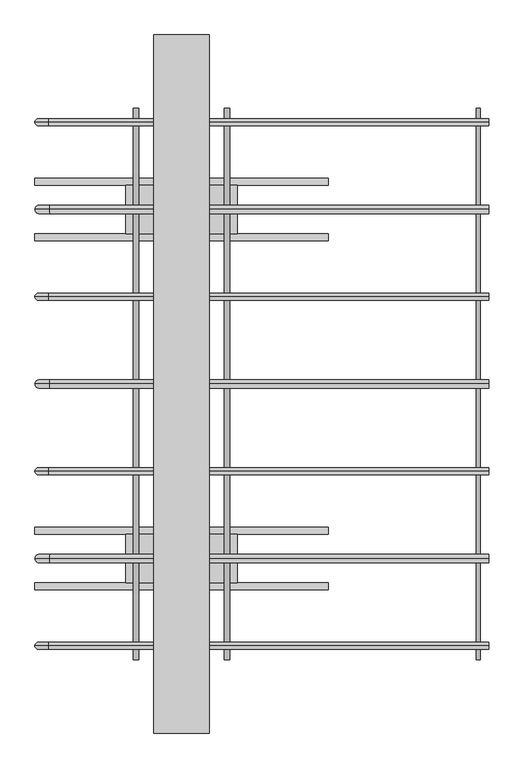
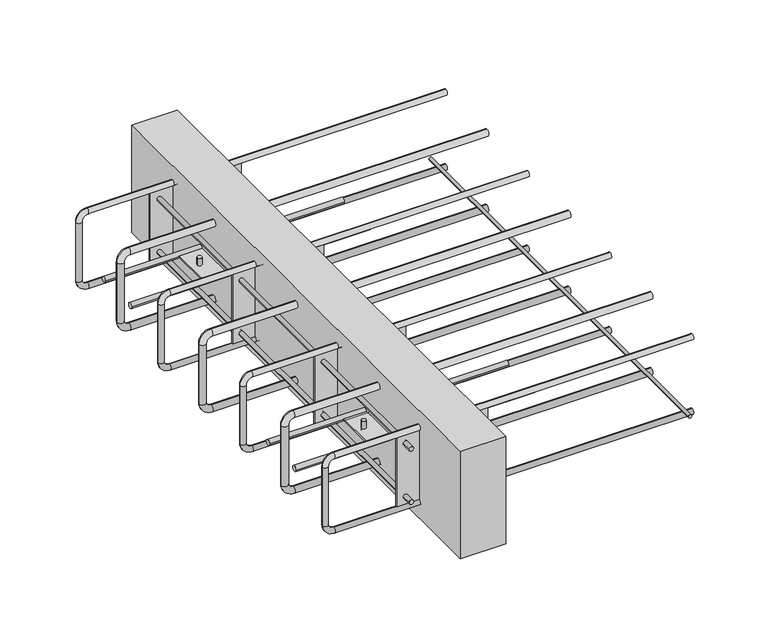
"""IFC4 building model written with IfcOpenShell, lengths in millimetres: fastener geometry, ACINOXplus_Typenreihe_Ux-Ox : UC+ S2."""

from ifc_helpers import new_model, si_unit, point, frame, frame_2d, origin, place, context, project, spatial, polyline, circle_curve, ellipse_curve, trimmed, segment, composite_curve, outline, extrude, source, transform, mapped, element, save
from ifc_brep_helpers import plane_surface, cylinder_surface, revolved_surface, advanced_brep


def fastener_02dcea03(model_context):
    return source(origin(), model_context, "Body", "SolidModel", [
        advanced_brep(
        [(440.0, 0.0, -23.5), (440.0, 0.0, -35.5), (-189.0, 0.0, -23.5), (-189.0, 0.0, -35.5), (-198.0, 0.0, -44.5), (-210.0, 0.0, -44.5), (-210.0, 0.0, -155.5), (-198.0, 0.0, -155.5), (-189.0, 0.0, -164.5), (-189.0, 0.0, -176.5), (440.0, 0.0, -176.5), (440.0, 0.0, -164.5)],
        [
            (0, 1, circle_curve(frame((440.0, 0.0, -29.5), z_axis=(1.0, 0.0, 0.0), x_axis=(0.0, 0.0, -1.0)), 6.0)),
            (1, 0, circle_curve(frame((440.0, 0.0, -29.5), z_axis=(1.0, 0.0, 0.0), x_axis=(0.0, 0.0, -1.0)), 6.0)),
            (0, 2),
            (2, 3, circle_curve(frame((-189.0, 0.0, -29.5), z_axis=(1.0, 0.0, 0.0), x_axis=(0.0, 0.0, -1.0)), 6.0)),
            (3, 1),
            (3, 2, circle_curve(frame((-189.0, 0.0, -29.5), z_axis=(1.0, 0.0, 0.0), x_axis=(0.0, 0.0, -1.0)), 6.0)),
            (4, 3, circle_curve(frame((-189.0, 0.0, -44.5), z_axis=(0.0, 1.0, 0.0), x_axis=(0.0, 0.0, 1.0)), 9.0)),
            (2, 5, circle_curve(frame((-189.0, 0.0, -44.5), z_axis=(0.0, -1.0, 0.0), x_axis=(0.0, 0.0, 1.0)), 21.0)),
            (5, 4, circle_curve(frame((-204.0, 0.0, -44.5), z_axis=(0.0, 0.0, 1.0), x_axis=(1.0, 0.0, 0.0)), 6.0)),
            (4, 5, circle_curve(frame((-204.0, 0.0, -44.5), z_axis=(0.0, 0.0, 1.0), x_axis=(1.0, 0.0, 0.0)), 6.0)),
            (5, 6),
            (6, 7, circle_curve(frame((-204.0, 0.0, -155.5), z_axis=(0.0, 0.0, 1.0), x_axis=(1.0, 0.0, 0.0)), 6.0)),
            (7, 4),
            (7, 6, circle_curve(frame((-204.0, 0.0, -155.5), z_axis=(0.0, 0.0, 1.0), x_axis=(1.0, 0.0, 0.0)), 6.0)),
            (8, 7, circle_curve(frame((-189.0, 0.0, -155.5), z_axis=(0.0, 1.0, 0.0), x_axis=(-1.0, 0.0, 0.0)), 9.0)),
            (6, 9, circle_curve(frame((-189.0, 0.0, -155.5), z_axis=(0.0, -1.0, 0.0), x_axis=(-1.0, 0.0, 0.0)), 21.0)),
            (9, 8, circle_curve(frame((-189.0, 0.0, -170.5), z_axis=(-1.0, 0.0, 0.0), x_axis=(0.0, 0.0, 1.0)), 6.0)),
            (8, 9, circle_curve(frame((-189.0, 0.0, -170.5), z_axis=(-1.0, 0.0, 0.0), x_axis=(0.0, 0.0, 1.0)), 6.0)),
            (10, 11, circle_curve(frame((440.0, 0.0, -170.5), z_axis=(1.0, 0.0, 0.0), x_axis=(0.0, 0.0, 1.0)), 6.0)),
            (11, 10, circle_curve(frame((440.0, 0.0, -170.5), z_axis=(1.0, 0.0, 0.0), x_axis=(0.0, 0.0, 1.0)), 6.0)),
            (9, 10),
            (11, 8),
        ],
        [
            plane_surface(frame((440.0, 0.0, -29.5), z_axis=(1.0, 0.0, 0.0), x_axis=(0.0, -1.0, 0.0))),
            cylinder_surface(frame((440.0, 0.0, -29.5), z_axis=(1.0, 0.0, 0.0), x_axis=(0.0, 0.0, -1.0)), 6.0),
            revolved_surface(trimmed(ellipse_curve(frame((-189.0, 0.0, -29.5), z_axis=(1.0, 0.0, 0.0), x_axis=(0.0, 0.0, -1.0)), 6.0, 6.0), [point((-189.0, 0.0, -23.5))], [point((-189.0, 0.0, -35.5))], True, "CARTESIAN"), (-189.0, 0.0, -44.5), (0.0, -1.0, 0.0)),
            revolved_surface(trimmed(ellipse_curve(frame((-189.0, 0.0, -29.5), z_axis=(1.0, 0.0, 0.0), x_axis=(0.0, 0.0, -1.0)), 6.0, 6.0), [point((-189.0, 0.0, -35.5))], [point((-189.0, 0.0, -23.5))], True, "CARTESIAN"), (-189.0, 0.0, -44.5), (0.0, -1.0, 0.0)),
            cylinder_surface(frame((-204.0, 0.0, -44.5), z_axis=(0.0, 0.0, 1.0), x_axis=(1.0, 0.0, 0.0)), 6.0),
            revolved_surface(trimmed(ellipse_curve(frame((-204.0, 0.0, -155.5), z_axis=(0.0, 0.0, 1.0), x_axis=(1.0, 0.0, 0.0)), 6.0, 6.0), [point((-210.0, 0.0, -155.5))], [point((-198.0, 0.0, -155.5))], True, "CARTESIAN"), (-189.0, 0.0, -155.5), (0.0, -1.0, 0.0)),
            revolved_surface(trimmed(ellipse_curve(frame((-204.0, 0.0, -155.5), z_axis=(0.0, 0.0, 1.0), x_axis=(1.0, 0.0, 0.0)), 6.0, 6.0), [point((-198.0, 0.0, -155.5))], [point((-210.0, 0.0, -155.5))], True, "CARTESIAN"), (-189.0, 0.0, -155.5), (0.0, -1.0, 0.0)),
            plane_surface(frame((440.0, 0.0, -170.5), z_axis=(1.0, 0.0, 0.0), x_axis=(0.0, -1.0, 0.0))),
            cylinder_surface(frame((-189.0, 0.0, -170.5), z_axis=(-1.0, 0.0, 0.0), x_axis=(0.0, 0.0, 1.0)), 6.0),
        ],
        [
            (0, [[1, 2]]),
            (1, [[-1, 3, 4, 5]]),
            (1, [[-2, -5, 6, -3]]),
            (2, [[7, -4, 8, 9]]),
            (3, [[-8, -6, -7, 10]]),
            (4, [[-9, 11, 12, 13]]),
            (4, [[-10, -13, 14, -11]]),
            (5, [[15, -12, 16, 17]]),
            (6, [[-16, -14, -15, 18]]),
            (7, [[19, 20]]),
            (8, [[-17, 21, -20, 22]]),
            (8, [[-18, -22, -19, -21]]),
        ],
    ),
        advanced_brep(
        [(440.0, 250.0, -23.5), (440.0, 250.0, -35.5), (-189.0, 250.0, -23.5), (-189.0, 250.0, -35.5), (-198.0, 250.0, -44.5), (-210.0, 250.0, -44.5), (-210.0, 250.0, -155.5), (-198.0, 250.0, -155.5), (-189.0, 250.0, -164.5), (-189.0, 250.0, -176.5), (440.0, 250.0, -176.5), (440.0, 250.0, -164.5)],
        [
            (0, 1, circle_curve(frame((440.0, 250.0, -29.5), z_axis=(1.0, 0.0, 0.0), x_axis=(0.0, 0.0, -1.0)), 6.0)),
            (1, 0, circle_curve(frame((440.0, 250.0, -29.5), z_axis=(1.0, 0.0, 0.0), x_axis=(0.0, 0.0, -1.0)), 6.0)),
            (0, 2),
            (2, 3, circle_curve(frame((-189.0, 250.0, -29.5), z_axis=(1.0, 0.0, 0.0), x_axis=(0.0, 0.0, -1.0)), 6.0)),
            (3, 1),
            (3, 2, circle_curve(frame((-189.0, 250.0, -29.5), z_axis=(1.0, 0.0, 0.0), x_axis=(0.0, 0.0, -1.0)), 6.0)),
            (4, 3, circle_curve(frame((-189.0, 250.0, -44.5), z_axis=(0.0, 1.0, 0.0), x_axis=(0.0, 0.0, 1.0)), 9.0)),
            (2, 5, circle_curve(frame((-189.0, 250.0, -44.5), z_axis=(0.0, -1.0, 0.0), x_axis=(0.0, 0.0, 1.0)), 21.0)),
            (5, 4, circle_curve(frame((-204.0, 250.0, -44.5), z_axis=(0.0, 0.0, 1.0), x_axis=(1.0, 0.0, 0.0)), 6.0)),
            (4, 5, circle_curve(frame((-204.0, 250.0, -44.5), z_axis=(0.0, 0.0, 1.0), x_axis=(1.0, 0.0, 0.0)), 6.0)),
            (5, 6),
            (6, 7, circle_curve(frame((-204.0, 250.0, -155.5), z_axis=(0.0, 0.0, 1.0), x_axis=(1.0, 0.0, 0.0)), 6.0)),
            (7, 4),
            (7, 6, circle_curve(frame((-204.0, 250.0, -155.5), z_axis=(0.0, 0.0, 1.0), x_axis=(1.0, 0.0, 0.0)), 6.0)),
            (8, 7, circle_curve(frame((-189.0, 250.0, -155.5), z_axis=(0.0, 1.0, 0.0), x_axis=(-1.0, 0.0, 0.0)), 9.0)),
            (6, 9, circle_curve(frame((-189.0, 250.0, -155.5), z_axis=(0.0, -1.0, 0.0), x_axis=(-1.0, 0.0, 0.0)), 21.0)),
            (9, 8, circle_curve(frame((-189.0, 250.0, -170.5), z_axis=(-1.0, 0.0, 0.0), x_axis=(0.0, 0.0, 1.0)), 6.0)),
            (8, 9, circle_curve(frame((-189.0, 250.0, -170.5), z_axis=(-1.0, 0.0, 0.0), x_axis=(0.0, 0.0, 1.0)), 6.0)),
            (10, 11, circle_curve(frame((440.0, 250.0, -170.5), z_axis=(1.0, 0.0, 0.0), x_axis=(0.0, 0.0, 1.0)), 6.0)),
            (11, 10, circle_curve(frame((440.0, 250.0, -170.5), z_axis=(1.0, 0.0, 0.0), x_axis=(0.0, 0.0, 1.0)), 6.0)),
            (9, 10),
            (11, 8),
        ],
        [
            plane_surface(frame((440.0, 250.0, -29.5), z_axis=(1.0, 0.0, 0.0), x_axis=(0.0, -1.0, 0.0))),
            cylinder_surface(frame((440.0, 250.0, -29.5), z_axis=(1.0, 0.0, 0.0), x_axis=(0.0, 0.0, -1.0)), 6.0),
            revolved_surface(trimmed(ellipse_curve(frame((-189.0, 250.0, -29.5), z_axis=(1.0, 0.0, 0.0), x_axis=(0.0, 0.0, -1.0)), 6.0, 6.0), [point((-189.0, 250.0, -23.5))], [point((-189.0, 250.0, -35.5))], True, "CARTESIAN"), (-189.0, 250.0, -44.5), (0.0, -1.0, 0.0)),
            revolved_surface(trimmed(ellipse_curve(frame((-189.0, 250.0, -29.5), z_axis=(1.0, 0.0, 0.0), x_axis=(0.0, 0.0, -1.0)), 6.0, 6.0), [point((-189.0, 250.0, -35.5))], [point((-189.0, 250.0, -23.5))], True, "CARTESIAN"), (-189.0, 250.0, -44.5), (0.0, -1.0, 0.0)),
            cylinder_surface(frame((-204.0, 250.0, -44.5), z_axis=(0.0, 0.0, 1.0), x_axis=(1.0, 0.0, 0.0)), 6.0),
            revolved_surface(trimmed(ellipse_curve(frame((-204.0, 250.0, -155.5), z_axis=(0.0, 0.0, 1.0), x_axis=(1.0, 0.0, 0.0)), 6.0, 6.0), [point((-210.0, 250.0, -155.5))], [point((-198.0, 250.0, -155.5))], True, "CARTESIAN"), (-189.0, 250.0, -155.5), (0.0, -1.0, 0.0)),
            revolved_surface(trimmed(ellipse_curve(frame((-204.0, 250.0, -155.5), z_axis=(0.0, 0.0, 1.0), x_axis=(1.0, 0.0, 0.0)), 6.0, 6.0), [point((-198.0, 250.0, -155.5))], [point((-210.0, 250.0, -155.5))], True, "CARTESIAN"), (-189.0, 250.0, -155.5), (0.0, -1.0, 0.0)),
            plane_surface(frame((440.0, 250.0, -170.5), z_axis=(1.0, 0.0, 0.0), x_axis=(0.0, -1.0, 0.0))),
            cylinder_surface(frame((-189.0, 250.0, -170.5), z_axis=(-1.0, 0.0, 0.0), x_axis=(0.0, 0.0, 1.0)), 6.0),
        ],
        [
            (0, [[1, 2]]),
            (1, [[-1, 3, 4, 5]]),
            (1, [[-2, -5, 6, -3]]),
            (2, [[7, -4, 8, 9]]),
            (3, [[-8, -6, -7, 10]]),
            (4, [[-9, 11, 12, 13]]),
            (4, [[-10, -13, 14, -11]]),
            (5, [[15, -12, 16, 17]]),
            (6, [[-16, -14, -15, 18]]),
            (7, [[19, 20]]),
            (8, [[-17, 21, -20, 22]]),
            (8, [[-18, -22, -19, -21]]),
        ],
    ),
        advanced_brep(
        [(440.0, -250.0, -23.5), (440.0, -250.0, -35.5), (-189.0, -250.0, -23.5), (-189.0, -250.0, -35.5), (-198.0, -250.0, -44.5), (-210.0, -250.0, -44.5), (-210.0, -250.0, -155.5), (-198.0, -250.0, -155.5), (-189.0, -250.0, -164.5), (-189.0, -250.0, -176.5), (440.0, -250.0, -176.5), (440.0, -250.0, -164.5)],
        [
            (0, 1, circle_curve(frame((440.0, -250.0, -29.5), z_axis=(1.0, 0.0, 0.0), x_axis=(0.0, 0.0, -1.0)), 6.0)),
            (1, 0, circle_curve(frame((440.0, -250.0, -29.5), z_axis=(1.0, 0.0, 0.0), x_axis=(0.0, 0.0, -1.0)), 6.0)),
            (0, 2),
            (2, 3, circle_curve(frame((-189.0, -250.0, -29.5), z_axis=(1.0, 0.0, 0.0), x_axis=(0.0, 0.0, -1.0)), 6.0)),
            (3, 1),
            (3, 2, circle_curve(frame((-189.0, -250.0, -29.5), z_axis=(1.0, 0.0, 0.0), x_axis=(0.0, 0.0, -1.0)), 6.0)),
            (4, 3, circle_curve(frame((-189.0, -250.0, -44.5), z_axis=(0.0, 1.0, 0.0), x_axis=(0.0, 0.0, 1.0)), 9.0)),
            (2, 5, circle_curve(frame((-189.0, -250.0, -44.5), z_axis=(0.0, -1.0, 0.0), x_axis=(0.0, 0.0, 1.0)), 21.0)),
            (5, 4, circle_curve(frame((-204.0, -250.0, -44.5), z_axis=(0.0, 0.0, 1.0), x_axis=(1.0, 0.0, 0.0)), 6.0)),
            (4, 5, circle_curve(frame((-204.0, -250.0, -44.5), z_axis=(0.0, 0.0, 1.0), x_axis=(1.0, 0.0, 0.0)), 6.0)),
            (5, 6),
            (6, 7, circle_curve(frame((-204.0, -250.0, -155.5), z_axis=(0.0, 0.0, 1.0), x_axis=(1.0, 0.0, 0.0)), 6.0)),
            (7, 4),
            (7, 6, circle_curve(frame((-204.0, -250.0, -155.5), z_axis=(0.0, 0.0, 1.0), x_axis=(1.0, 0.0, 0.0)), 6.0)),
            (8, 7, circle_curve(frame((-189.0, -250.0, -155.5), z_axis=(0.0, 1.0, 0.0), x_axis=(-1.0, 0.0, 0.0)), 9.0)),
            (6, 9, circle_curve(frame((-189.0, -250.0, -155.5), z_axis=(0.0, -1.0, 0.0), x_axis=(-1.0, 0.0, 0.0)), 21.0)),
            (9, 8, circle_curve(frame((-189.0, -250.0, -170.5), z_axis=(-1.0, 0.0, 0.0), x_axis=(0.0, 0.0, 1.0)), 6.0)),
            (8, 9, circle_curve(frame((-189.0, -250.0, -170.5), z_axis=(-1.0, 0.0, 0.0), x_axis=(0.0, 0.0, 1.0)), 6.0)),
            (10, 11, circle_curve(frame((440.0, -250.0, -170.5), z_axis=(1.0, 0.0, 0.0), x_axis=(0.0, 0.0, 1.0)), 6.0)),
            (11, 10, circle_curve(frame((440.0, -250.0, -170.5), z_axis=(1.0, 0.0, 0.0), x_axis=(0.0, 0.0, 1.0)), 6.0)),
            (9, 10),
            (11, 8),
        ],
        [
            plane_surface(frame((440.0, -250.0, -29.5), z_axis=(1.0, 0.0, 0.0), x_axis=(0.0, -1.0, 0.0))),
            cylinder_surface(frame((440.0, -250.0, -29.5), z_axis=(1.0, 0.0, 0.0), x_axis=(0.0, 0.0, -1.0)), 6.0),
            revolved_surface(trimmed(ellipse_curve(frame((-189.0, -250.0, -29.5), z_axis=(1.0, 0.0, 0.0), x_axis=(0.0, 0.0, -1.0)), 6.0, 6.0), [point((-189.0, -250.0, -23.5))], [point((-189.0, -250.0, -35.5))], True, "CARTESIAN"), (-189.0, -250.0, -44.5), (0.0, -1.0, 0.0)),
            revolved_surface(trimmed(ellipse_curve(frame((-189.0, -250.0, -29.5), z_axis=(1.0, 0.0, 0.0), x_axis=(0.0, 0.0, -1.0)), 6.0, 6.0), [point((-189.0, -250.0, -35.5))], [point((-189.0, -250.0, -23.5))], True, "CARTESIAN"), (-189.0, -250.0, -44.5), (0.0, -1.0, 0.0)),
            cylinder_surface(frame((-204.0, -250.0, -44.5), z_axis=(0.0, 0.0, 1.0), x_axis=(1.0, 0.0, 0.0)), 6.0),
            revolved_surface(trimmed(ellipse_curve(frame((-204.0, -250.0, -155.5), z_axis=(0.0, 0.0, 1.0), x_axis=(1.0, 0.0, 0.0)), 6.0, 6.0), [point((-210.0, -250.0, -155.5))], [point((-198.0, -250.0, -155.5))], True, "CARTESIAN"), (-189.0, -250.0, -155.5), (0.0, -1.0, 0.0)),
            revolved_surface(trimmed(ellipse_curve(frame((-204.0, -250.0, -155.5), z_axis=(0.0, 0.0, 1.0), x_axis=(1.0, 0.0, 0.0)), 6.0, 6.0), [point((-198.0, -250.0, -155.5))], [point((-210.0, -250.0, -155.5))], True, "CARTESIAN"), (-189.0, -250.0, -155.5), (0.0, -1.0, 0.0)),
            plane_surface(frame((440.0, -250.0, -170.5), z_axis=(1.0, 0.0, 0.0), x_axis=(0.0, -1.0, 0.0))),
            cylinder_surface(frame((-189.0, -250.0, -170.5), z_axis=(-1.0, 0.0, 0.0), x_axis=(0.0, 0.0, 1.0)), 6.0),
        ],
        [
            (0, [[1, 2]]),
            (1, [[-1, 3, 4, 5]]),
            (1, [[-2, -5, 6, -3]]),
            (2, [[7, -4, 8, 9]]),
            (3, [[-8, -6, -7, 10]]),
            (4, [[-9, 11, 12, 13]]),
            (4, [[-10, -13, 14, -11]]),
            (5, [[15, -12, 16, 17]]),
            (6, [[-16, -14, -15, 18]]),
            (7, [[19, 20]]),
            (8, [[-17, 21, -20, 22]]),
            (8, [[-18, -22, -19, -21]]),
        ],
    ),
        extrude(outline(composite_curve([segment(trimmed(circle_curve(frame_2d((-161.5, 425.0)), 3.0), [point((-161.5, 428.0))], [point((-161.5, 422.0))], False, "CARTESIAN"), True, "CONTINUOUS"), segment(trimmed(circle_curve(frame_2d((-161.5, 425.0)), 3.0), [point((-161.5, 422.0))], [point((-161.5, 428.0))], False, "CARTESIAN"), True, "CONTINUOUS")], self_intersect=False)), frame((0.0, -395.0, 0.0), z_axis=(0.0, 1.0, 0.0), x_axis=(0.0, 0.0, 1.0)), (0.0, 0.0, 1.0), 790.0),
        extrude(outline(composite_curve([segment(trimmed(circle_curve(frame_2d((-290.0, -100.0)), 5.0), [point((-295.0, -100.0))], [point((-285.0, -100.0))], False, "CARTESIAN"), True, "CONTINUOUS"), segment(trimmed(circle_curve(frame_2d((-290.0, -100.0)), 5.0), [point((-285.0, -100.0))], [point((-295.0, -100.0))], False, "CARTESIAN"), True, "CONTINUOUS")], self_intersect=False)), frame((-210.0, 0.0, 0.0), z_axis=(1.0, 0.0, 0.0), x_axis=(0.0, 1.0, 0.0)), (0.0, 0.0, 1.0), 420.0),
        extrude(outline(composite_curve([segment(trimmed(circle_curve(frame_2d((-210.0, -100.0)), 5.0), [point((-215.0, -100.0))], [point((-205.0, -100.0))], False, "CARTESIAN"), True, "CONTINUOUS"), segment(trimmed(circle_curve(frame_2d((-210.0, -100.0)), 5.0), [point((-205.0, -100.0))], [point((-215.0, -100.0))], False, "CARTESIAN"), True, "CONTINUOUS")], self_intersect=False)), frame((-210.0, 0.0, 0.0), z_axis=(1.0, 0.0, 0.0), x_axis=(0.0, 1.0, 0.0)), (0.0, 0.0, 1.0), 420.0),
        extrude(outline(composite_curve([segment(trimmed(circle_curve(frame_2d((-65.0, -250.0)), 4.0), [point((-61.0, -250.0))], [point((-69.0, -250.0))], False, "CARTESIAN"), True, "CONTINUOUS"), segment(trimmed(circle_curve(frame_2d((-65.0, -250.0)), 4.0), [point((-69.0, -250.0))], [point((-61.0, -250.0))], False, "CARTESIAN"), True, "CONTINUOUS")], self_intersect=False)), frame((0.0, 0.0, -98.5), z_axis=(0.0, 0.0, 1.0), x_axis=(1.0, 0.0, 0.0)), (0.0, 0.0, 1.0), 13.5),
        extrude(outline(composite_curve([segment(trimmed(circle_curve(frame_2d((65.0, -250.0)), 4.0), [point((69.0, -250.0))], [point((61.0, -250.0))], False, "CARTESIAN"), True, "CONTINUOUS"), segment(trimmed(circle_curve(frame_2d((65.0, -250.0)), 4.0), [point((61.0, -250.0))], [point((69.0, -250.0))], False, "CARTESIAN"), True, "CONTINUOUS")], self_intersect=False)), frame((0.0, 0.0, -98.5), z_axis=(0.0, 0.0, 1.0), x_axis=(1.0, 0.0, 0.0)), (0.0, 0.0, 1.0), 13.5),
        extrude(outline(composite_curve([segment(trimmed(circle_curve(frame_2d((-65.0, -250.0)), 4.0), [point((-69.0, -250.0))], [point((-61.0, -250.0))], False, "CARTESIAN"), True, "CONTINUOUS"), segment(trimmed(circle_curve(frame_2d((-65.0, -250.0)), 4.0), [point((-61.0, -250.0))], [point((-69.0, -250.0))], False, "CARTESIAN"), True, "CONTINUOUS")], self_intersect=False)), frame((0.0, 0.0, -115.0), z_axis=(0.0, 0.0, 1.0), x_axis=(1.0, 0.0, 0.0)), (0.0, 0.0, 1.0), 13.5),
        extrude(outline(composite_curve([segment(trimmed(circle_curve(frame_2d((65.0, -250.0)), 4.0), [point((61.0, -250.0))], [point((69.0, -250.0))], False, "CARTESIAN"), True, "CONTINUOUS"), segment(trimmed(circle_curve(frame_2d((65.0, -250.0)), 4.0), [point((69.0, -250.0))], [point((61.0, -250.0))], False, "CARTESIAN"), True, "CONTINUOUS")], self_intersect=False)), frame((0.0, 0.0, -115.0), z_axis=(0.0, 0.0, 1.0), x_axis=(1.0, 0.0, 0.0)), (0.0, 0.0, 1.0), 13.5),
        extrude(outline(polyline([(80.0, -215.0), (80.0, -285.0), (-80.0, -285.0), (-80.0, -215.0), (80.0, -215.0)])), frame((0.0, 0.0, -101.5), z_axis=(0.0, 0.0, 1.0), x_axis=(1.0, 0.0, 0.0)), (0.0, 0.0, 1.0), 3.0),
        extrude(outline(composite_curve([segment(trimmed(circle_curve(frame_2d((210.0, -100.0)), 5.0), [point((205.0, -100.0))], [point((215.0, -100.0))], False, "CARTESIAN"), True, "CONTINUOUS"), segment(trimmed(circle_curve(frame_2d((210.0, -100.0)), 5.0), [point((215.0, -100.0))], [point((205.0, -100.0))], False, "CARTESIAN"), True, "CONTINUOUS")], self_intersect=False)), frame((-210.0, 0.0, 0.0), z_axis=(1.0, 0.0, 0.0), x_axis=(0.0, 1.0, 0.0)), (0.0, 0.0, 1.0), 420.0),
        extrude(outline(composite_curve([segment(trimmed(circle_curve(frame_2d((290.0, -100.0)), 5.0), [point((285.0, -100.0))], [point((295.0, -100.0))], False, "CARTESIAN"), True, "CONTINUOUS"), segment(trimmed(circle_curve(frame_2d((290.0, -100.0)), 5.0), [point((295.0, -100.0))], [point((285.0, -100.0))], False, "CARTESIAN"), True, "CONTINUOUS")], self_intersect=False)), frame((-210.0, 0.0, 0.0), z_axis=(1.0, 0.0, 0.0), x_axis=(0.0, 1.0, 0.0)), (0.0, 0.0, 1.0), 420.0),
        extrude(outline(composite_curve([segment(trimmed(circle_curve(frame_2d((-65.0, 250.0)), 4.0), [point((-61.0, 250.0))], [point((-69.0, 250.0))], False, "CARTESIAN"), True, "CONTINUOUS"), segment(trimmed(circle_curve(frame_2d((-65.0, 250.0)), 4.0), [point((-69.0, 250.0))], [point((-61.0, 250.0))], False, "CARTESIAN"), True, "CONTINUOUS")], self_intersect=False)), frame((0.0, 0.0, -98.5), z_axis=(0.0, 0.0, 1.0), x_axis=(1.0, 0.0, 0.0)), (0.0, 0.0, 1.0), 13.5),
        extrude(outline(composite_curve([segment(trimmed(circle_curve(frame_2d((65.0, 250.0)), 4.0), [point((69.0, 250.0))], [point((61.0, 250.0))], False, "CARTESIAN"), True, "CONTINUOUS"), segment(trimmed(circle_curve(frame_2d((65.0, 250.0)), 4.0), [point((61.0, 250.0))], [point((69.0, 250.0))], False, "CARTESIAN"), True, "CONTINUOUS")], self_intersect=False)), frame((0.0, 0.0, -98.5), z_axis=(0.0, 0.0, 1.0), x_axis=(1.0, 0.0, 0.0)), (0.0, 0.0, 1.0), 13.5),
        extrude(outline(composite_curve([segment(trimmed(circle_curve(frame_2d((-65.0, 250.0)), 4.0), [point((-69.0, 250.0))], [point((-61.0, 250.0))], False, "CARTESIAN"), True, "CONTINUOUS"), segment(trimmed(circle_curve(frame_2d((-65.0, 250.0)), 4.0), [point((-61.0, 250.0))], [point((-69.0, 250.0))], False, "CARTESIAN"), True, "CONTINUOUS")], self_intersect=False)), frame((0.0, 0.0, -115.0), z_axis=(0.0, 0.0, 1.0), x_axis=(1.0, 0.0, 0.0)), (0.0, 0.0, 1.0), 13.5),
        extrude(outline(composite_curve([segment(trimmed(circle_curve(frame_2d((65.0, 250.0)), 4.0), [point((61.0, 250.0))], [point((69.0, 250.0))], False, "CARTESIAN"), True, "CONTINUOUS"), segment(trimmed(circle_curve(frame_2d((65.0, 250.0)), 4.0), [point((69.0, 250.0))], [point((61.0, 250.0))], False, "CARTESIAN"), True, "CONTINUOUS")], self_intersect=False)), frame((0.0, 0.0, -115.0), z_axis=(0.0, 0.0, 1.0), x_axis=(1.0, 0.0, 0.0)), (0.0, 0.0, 1.0), 13.5),
        extrude(outline(polyline([(80.0, 285.0), (80.0, 215.0), (-80.0, 215.0), (-80.0, 285.0), (80.0, 285.0)])), frame((0.0, 0.0, -101.5), z_axis=(0.0, 0.0, 1.0), x_axis=(1.0, 0.0, 0.0)), (0.0, 0.0, 1.0), 3.0),
        extrude(outline(polyline([(40.0, 500.0), (40.0, -500.0), (-40.0, -500.0), (-40.0, 500.0), (40.0, 500.0)])), frame((0.0, 0.0, -200.0), z_axis=(0.0, 0.0, 1.0), x_axis=(1.0, 0.0, 0.0)), (0.0, 0.0, 1.0), 200.0),
        extrude(outline(polyline([(80.0, -123.5), (80.0, -126.5), (-80.0, -126.5), (-80.0, -123.5), (80.0, -123.5)])), frame((0.0, 0.0, -164.5), z_axis=(0.0, 0.0, 1.0), x_axis=(1.0, 0.0, 0.0)), (0.0, 0.0, 1.0), 129.0),
        extrude(outline(polyline([(80.0, 126.5), (80.0, 123.5), (-80.0, 123.5), (-80.0, 126.5), (80.0, 126.5)])), frame((0.0, 0.0, -164.5), z_axis=(0.0, 0.0, 1.0), x_axis=(1.0, 0.0, 0.0)), (0.0, 0.0, 1.0), 129.0),
        extrude(outline(polyline([(80.0, -373.5), (80.0, -376.5), (-80.0, -376.5), (-80.0, -373.5), (80.0, -373.5)])), frame((0.0, 0.0, -164.5), z_axis=(0.0, 0.0, 1.0), x_axis=(1.0, 0.0, 0.0)), (0.0, 0.0, 1.0), 129.0),
        extrude(outline(polyline([(80.0, 376.5), (80.0, 373.5), (-80.0, 373.5), (-80.0, 376.5), (80.0, 376.5)])), frame((0.0, 0.0, -164.5), z_axis=(0.0, 0.0, 1.0), x_axis=(1.0, 0.0, 0.0)), (0.0, 0.0, 1.0), 129.0),
        extrude(outline(composite_curve([segment(trimmed(circle_curve(frame_2d((-149.5, -65.0)), 4.0), [point((-149.5, -61.0))], [point((-149.5, -69.0))], False, "CARTESIAN"), True, "CONTINUOUS"), segment(trimmed(circle_curve(frame_2d((-149.5, -65.0)), 4.0), [point((-149.5, -69.0))], [point((-149.5, -61.0))], False, "CARTESIAN"), True, "CONTINUOUS")], self_intersect=False)), frame((0.0, -395.0, 0.0), z_axis=(0.0, 1.0, 0.0), x_axis=(0.0, 0.0, 1.0)), (0.0, 0.0, 1.0), 18.5),
        extrude(outline(composite_curve([segment(trimmed(circle_curve(frame_2d((-149.5, -65.0)), 4.0), [point((-149.5, -69.0))], [point((-149.5, -61.0))], False, "CARTESIAN"), True, "CONTINUOUS"), segment(trimmed(circle_curve(frame_2d((-149.5, -65.0)), 4.0), [point((-149.5, -61.0))], [point((-149.5, -69.0))], False, "CARTESIAN"), True, "CONTINUOUS")], self_intersect=False)), frame((0.0, -373.5, 0.0), z_axis=(0.0, 1.0, 0.0), x_axis=(0.0, 0.0, 1.0)), (0.0, 0.0, 1.0), 497.0),
        extrude(outline(composite_curve([segment(trimmed(circle_curve(frame_2d((-149.5, -65.0)), 4.0), [point((-149.5, -69.0))], [point((-149.5, -61.0))], False, "CARTESIAN"), True, "CONTINUOUS"), segment(trimmed(circle_curve(frame_2d((-149.5, -65.0)), 4.0), [point((-149.5, -61.0))], [point((-149.5, -69.0))], False, "CARTESIAN"), True, "CONTINUOUS")], self_intersect=False)), frame((0.0, 376.5, 0.0), z_axis=(0.0, 1.0, 0.0), x_axis=(0.0, 0.0, 1.0)), (0.0, 0.0, 1.0), 18.5),
        extrude(outline(composite_curve([segment(trimmed(circle_curve(frame_2d((-149.5, -65.0)), 4.0), [point((-149.5, -69.0))], [point((-149.5, -61.0))], False, "CARTESIAN"), True, "CONTINUOUS"), segment(trimmed(circle_curve(frame_2d((-149.5, -65.0)), 4.0), [point((-149.5, -61.0))], [point((-149.5, -69.0))], False, "CARTESIAN"), True, "CONTINUOUS")], self_intersect=False)), frame((0.0, 126.5, 0.0), z_axis=(0.0, 1.0, 0.0), x_axis=(0.0, 0.0, 1.0)), (0.0, 0.0, 1.0), 247.0),
        extrude(outline(composite_curve([segment(trimmed(circle_curve(frame_2d((-149.5, 65.0)), 4.0), [point((-149.5, 69.0))], [point((-149.5, 61.0))], False, "CARTESIAN"), True, "CONTINUOUS"), segment(trimmed(circle_curve(frame_2d((-149.5, 65.0)), 4.0), [point((-149.5, 61.0))], [point((-149.5, 69.0))], False, "CARTESIAN"), True, "CONTINUOUS")], self_intersect=False)), frame((0.0, -395.0, 0.0), z_axis=(0.0, 1.0, 0.0), x_axis=(0.0, 0.0, 1.0)), (0.0, 0.0, 1.0), 18.5),
        extrude(outline(composite_curve([segment(trimmed(circle_curve(frame_2d((-149.5, 65.0)), 4.0), [point((-149.5, 61.0))], [point((-149.5, 69.0))], False, "CARTESIAN"), True, "CONTINUOUS"), segment(trimmed(circle_curve(frame_2d((-149.5, 65.0)), 4.0), [point((-149.5, 69.0))], [point((-149.5, 61.0))], False, "CARTESIAN"), True, "CONTINUOUS")], self_intersect=False)), frame((0.0, -373.5, 0.0), z_axis=(0.0, 1.0, 0.0), x_axis=(0.0, 0.0, 1.0)), (0.0, 0.0, 1.0), 497.0),
        extrude(outline(composite_curve([segment(trimmed(circle_curve(frame_2d((-149.5, 65.0)), 4.0), [point((-149.5, 61.0))], [point((-149.5, 69.0))], False, "CARTESIAN"), True, "CONTINUOUS"), segment(trimmed(circle_curve(frame_2d((-149.5, 65.0)), 4.0), [point((-149.5, 69.0))], [point((-149.5, 61.0))], False, "CARTESIAN"), True, "CONTINUOUS")], self_intersect=False)), frame((0.0, 376.5, 0.0), z_axis=(0.0, 1.0, 0.0), x_axis=(0.0, 0.0, 1.0)), (0.0, 0.0, 1.0), 18.5),
        extrude(outline(composite_curve([segment(trimmed(circle_curve(frame_2d((-149.5, 65.0)), 4.0), [point((-149.5, 61.0))], [point((-149.5, 69.0))], False, "CARTESIAN"), True, "CONTINUOUS"), segment(trimmed(circle_curve(frame_2d((-149.5, 65.0)), 4.0), [point((-149.5, 69.0))], [point((-149.5, 61.0))], False, "CARTESIAN"), True, "CONTINUOUS")], self_intersect=False)), frame((0.0, 126.5, 0.0), z_axis=(0.0, 1.0, 0.0), x_axis=(0.0, 0.0, 1.0)), (0.0, 0.0, 1.0), 247.0),
        extrude(outline(composite_curve([segment(trimmed(circle_curve(frame_2d((-50.5, -65.0)), 4.0), [point((-50.5, -69.0))], [point((-50.5, -61.0))], False, "CARTESIAN"), True, "CONTINUOUS"), segment(trimmed(circle_curve(frame_2d((-50.5, -65.0)), 4.0), [point((-50.5, -61.0))], [point((-50.5, -69.0))], False, "CARTESIAN"), True, "CONTINUOUS")], self_intersect=False)), frame((0.0, 376.5, 0.0), z_axis=(0.0, 1.0, 0.0), x_axis=(0.0, 0.0, 1.0)), (0.0, 0.0, 1.0), 18.5),
        extrude(outline(composite_curve([segment(trimmed(circle_curve(frame_2d((-50.5, -65.0)), 4.0), [point((-50.5, -61.0))], [point((-50.5, -69.0))], False, "CARTESIAN"), True, "CONTINUOUS"), segment(trimmed(circle_curve(frame_2d((-50.5, -65.0)), 4.0), [point((-50.5, -69.0))], [point((-50.5, -61.0))], False, "CARTESIAN"), True, "CONTINUOUS")], self_intersect=False)), frame((0.0, -395.0, 0.0), z_axis=(0.0, 1.0, 0.0), x_axis=(0.0, 0.0, 1.0)), (0.0, 0.0, 1.0), 18.5),
        extrude(outline(composite_curve([segment(trimmed(circle_curve(frame_2d((-50.5, -65.0)), 4.0), [point((-50.5, -69.0))], [point((-50.5, -61.0))], False, "CARTESIAN"), True, "CONTINUOUS"), segment(trimmed(circle_curve(frame_2d((-50.5, -65.0)), 4.0), [point((-50.5, -61.0))], [point((-50.5, -69.0))], False, "CARTESIAN"), True, "CONTINUOUS")], self_intersect=False)), frame((0.0, -373.5, 0.0), z_axis=(0.0, 1.0, 0.0), x_axis=(0.0, 0.0, 1.0)), (0.0, 0.0, 1.0), 497.0),
        extrude(outline(composite_curve([segment(trimmed(circle_curve(frame_2d((-50.5, -65.0)), 4.0), [point((-50.5, -69.0))], [point((-50.5, -61.0))], False, "CARTESIAN"), True, "CONTINUOUS"), segment(trimmed(circle_curve(frame_2d((-50.5, -65.0)), 4.0), [point((-50.5, -61.0))], [point((-50.5, -69.0))], False, "CARTESIAN"), True, "CONTINUOUS")], self_intersect=False)), frame((0.0, 126.5, 0.0), z_axis=(0.0, 1.0, 0.0), x_axis=(0.0, 0.0, 1.0)), (0.0, 0.0, 1.0), 247.0),
        extrude(outline(composite_curve([segment(trimmed(circle_curve(frame_2d((-50.5, 65.0)), 4.0), [point((-50.5, 61.0))], [point((-50.5, 69.0))], False, "CARTESIAN"), True, "CONTINUOUS"), segment(trimmed(circle_curve(frame_2d((-50.5, 65.0)), 4.0), [point((-50.5, 69.0))], [point((-50.5, 61.0))], False, "CARTESIAN"), True, "CONTINUOUS")], self_intersect=False)), frame((0.0, 376.5, 0.0), z_axis=(0.0, 1.0, 0.0), x_axis=(0.0, 0.0, 1.0)), (0.0, 0.0, 1.0), 18.5),
        extrude(outline(composite_curve([segment(trimmed(circle_curve(frame_2d((-50.5, 65.0)), 4.0), [point((-50.5, 69.0))], [point((-50.5, 61.0))], False, "CARTESIAN"), True, "CONTINUOUS"), segment(trimmed(circle_curve(frame_2d((-50.5, 65.0)), 4.0), [point((-50.5, 61.0))], [point((-50.5, 69.0))], False, "CARTESIAN"), True, "CONTINUOUS")], self_intersect=False)), frame((0.0, -395.0, 0.0), z_axis=(0.0, 1.0, 0.0), x_axis=(0.0, 0.0, 1.0)), (0.0, 0.0, 1.0), 18.5),
        extrude(outline(composite_curve([segment(trimmed(circle_curve(frame_2d((-50.5, 65.0)), 4.0), [point((-50.5, 61.0))], [point((-50.5, 69.0))], False, "CARTESIAN"), True, "CONTINUOUS"), segment(trimmed(circle_curve(frame_2d((-50.5, 65.0)), 4.0), [point((-50.5, 69.0))], [point((-50.5, 61.0))], False, "CARTESIAN"), True, "CONTINUOUS")], self_intersect=False)), frame((0.0, -373.5, 0.0), z_axis=(0.0, 1.0, 0.0), x_axis=(0.0, 0.0, 1.0)), (0.0, 0.0, 1.0), 497.0),
        extrude(outline(composite_curve([segment(trimmed(circle_curve(frame_2d((-50.5, 65.0)), 4.0), [point((-50.5, 61.0))], [point((-50.5, 69.0))], False, "CARTESIAN"), True, "CONTINUOUS"), segment(trimmed(circle_curve(frame_2d((-50.5, 65.0)), 4.0), [point((-50.5, 69.0))], [point((-50.5, 61.0))], False, "CARTESIAN"), True, "CONTINUOUS")], self_intersect=False)), frame((0.0, 126.5, 0.0), z_axis=(0.0, 1.0, 0.0), x_axis=(0.0, 0.0, 1.0)), (0.0, 0.0, 1.0), 247.0),
        advanced_brep(
        [(440.0, 125.0, -25.5), (440.0, 125.0, -35.5), (-190.0, 125.0, -25.5), (-190.0, 125.0, -35.5), (-200.0, 125.0, -45.5), (-210.0, 125.0, -45.5), (-210.0, 125.0, -154.5), (-200.0, 125.0, -154.5), (-190.0, 125.0, -164.5), (-190.0, 125.0, -174.5), (440.0, 125.0, -174.5), (440.0, 125.0, -164.5)],
        [
            (0, 1, circle_curve(frame((440.0, 125.0, -30.5), z_axis=(1.0, 0.0, 0.0), x_axis=(0.0, 0.0, -1.0)), 5.0)),
            (1, 0, circle_curve(frame((440.0, 125.0, -30.5), z_axis=(1.0, 0.0, 0.0), x_axis=(0.0, 0.0, -1.0)), 5.0)),
            (0, 2),
            (2, 3, circle_curve(frame((-190.0, 125.0, -30.5), z_axis=(1.0, 0.0, 0.0), x_axis=(0.0, 0.0, -1.0)), 5.0)),
            (3, 1),
            (3, 2, circle_curve(frame((-190.0, 125.0, -30.5), z_axis=(1.0, 0.0, 0.0), x_axis=(0.0, 0.0, -1.0)), 5.0)),
            (4, 3, circle_curve(frame((-190.0, 125.0, -45.5), z_axis=(0.0, 1.0, 0.0), x_axis=(0.0, 0.0, 1.0)), 10.0)),
            (2, 5, circle_curve(frame((-190.0, 125.0, -45.5), z_axis=(0.0, -1.0, 0.0), x_axis=(0.0, 0.0, 1.0)), 20.0)),
            (5, 4, circle_curve(frame((-205.0, 125.0, -45.5), z_axis=(0.0, 0.0, 1.0), x_axis=(1.0, 0.0, 0.0)), 5.0)),
            (4, 5, circle_curve(frame((-205.0, 125.0, -45.5), z_axis=(0.0, 0.0, 1.0), x_axis=(1.0, 0.0, 0.0)), 5.0)),
            (5, 6),
            (6, 7, circle_curve(frame((-205.0, 125.0, -154.5), z_axis=(0.0, 0.0, 1.0), x_axis=(1.0, 0.0, 0.0)), 5.0)),
            (7, 4),
            (7, 6, circle_curve(frame((-205.0, 125.0, -154.5), z_axis=(0.0, 0.0, 1.0), x_axis=(1.0, 0.0, 0.0)), 5.0)),
            (8, 7, circle_curve(frame((-190.0, 125.0, -154.5), z_axis=(0.0, 1.0, 0.0), x_axis=(-1.0, 0.0, 0.0)), 10.0)),
            (6, 9, circle_curve(frame((-190.0, 125.0, -154.5), z_axis=(0.0, -1.0, 0.0), x_axis=(-1.0, 0.0, 0.0)), 20.0)),
            (9, 8, circle_curve(frame((-190.0, 125.0, -169.5), z_axis=(-1.0, 0.0, 0.0), x_axis=(0.0, 0.0, 1.0)), 5.0)),
            (8, 9, circle_curve(frame((-190.0, 125.0, -169.5), z_axis=(-1.0, 0.0, 0.0), x_axis=(0.0, 0.0, 1.0)), 5.0)),
            (10, 11, circle_curve(frame((440.0, 125.0, -169.5), z_axis=(1.0, 0.0, 0.0), x_axis=(0.0, 0.0, 1.0)), 5.0)),
            (11, 10, circle_curve(frame((440.0, 125.0, -169.5), z_axis=(1.0, 0.0, 0.0), x_axis=(0.0, 0.0, 1.0)), 5.0)),
            (9, 10),
            (11, 8),
        ],
        [
            plane_surface(frame((440.0, 125.0, -30.5), z_axis=(1.0, 0.0, 0.0), x_axis=(0.0, -1.0, 0.0))),
            cylinder_surface(frame((440.0, 125.0, -30.5), z_axis=(1.0, 0.0, 0.0), x_axis=(0.0, 0.0, -1.0)), 5.0),
            revolved_surface(trimmed(ellipse_curve(frame((-190.0, 125.0, -30.5), z_axis=(1.0, 0.0, 0.0), x_axis=(0.0, 0.0, -1.0)), 5.0, 5.0), [point((-190.0, 125.0, -25.5))], [point((-190.0, 125.0, -35.5))], True, "CARTESIAN"), (-190.0, 125.0, -45.5), (0.0, -1.0, 0.0)),
            revolved_surface(trimmed(ellipse_curve(frame((-190.0, 125.0, -30.5), z_axis=(1.0, 0.0, 0.0), x_axis=(0.0, 0.0, -1.0)), 5.0, 5.0), [point((-190.0, 125.0, -35.5))], [point((-190.0, 125.0, -25.5))], True, "CARTESIAN"), (-190.0, 125.0, -45.5), (0.0, -1.0, 0.0)),
            cylinder_surface(frame((-205.0, 125.0, -45.5), z_axis=(0.0, 0.0, 1.0), x_axis=(1.0, 0.0, 0.0)), 5.0),
            revolved_surface(trimmed(ellipse_curve(frame((-205.0, 125.0, -154.5), z_axis=(0.0, 0.0, 1.0), x_axis=(1.0, 0.0, 0.0)), 5.0, 5.0), [point((-210.0, 125.0, -154.5))], [point((-200.0, 125.0, -154.5))], True, "CARTESIAN"), (-190.0, 125.0, -154.5), (0.0, -1.0, 0.0)),
            revolved_surface(trimmed(ellipse_curve(frame((-205.0, 125.0, -154.5), z_axis=(0.0, 0.0, 1.0), x_axis=(1.0, 0.0, 0.0)), 5.0, 5.0), [point((-200.0, 125.0, -154.5))], [point((-210.0, 125.0, -154.5))], True, "CARTESIAN"), (-190.0, 125.0, -154.5), (0.0, -1.0, 0.0)),
            plane_surface(frame((440.0, 125.0, -169.5), z_axis=(1.0, 0.0, 0.0), x_axis=(0.0, -1.0, 0.0))),
            cylinder_surface(frame((-190.0, 125.0, -169.5), z_axis=(-1.0, 0.0, 0.0), x_axis=(0.0, 0.0, 1.0)), 5.0),
        ],
        [
            (0, [[1, 2]]),
            (1, [[-1, 3, 4, 5]]),
            (1, [[-2, -5, 6, -3]]),
            (2, [[7, -4, 8, 9]]),
            (3, [[-8, -6, -7, 10]]),
            (4, [[-9, 11, 12, 13]]),
            (4, [[-10, -13, 14, -11]]),
            (5, [[15, -12, 16, 17]]),
            (6, [[-16, -14, -15, 18]]),
            (7, [[19, 20]]),
            (8, [[-17, 21, -20, 22]]),
            (8, [[-18, -22, -19, -21]]),
        ],
    ),
        advanced_brep(
        [(440.0, -125.0, -25.5), (440.0, -125.0, -35.5), (-190.0, -125.0, -25.5), (-190.0, -125.0, -35.5), (-200.0, -125.0, -45.5), (-210.0, -125.0, -45.5), (-210.0, -125.0, -154.5), (-200.0, -125.0, -154.5), (-190.0, -125.0, -164.5), (-190.0, -125.0, -174.5), (440.0, -125.0, -174.5), (440.0, -125.0, -164.5)],
        [
            (0, 1, circle_curve(frame((440.0, -125.0, -30.5), z_axis=(1.0, 0.0, 0.0), x_axis=(0.0, 0.0, -1.0)), 5.0)),
            (1, 0, circle_curve(frame((440.0, -125.0, -30.5), z_axis=(1.0, 0.0, 0.0), x_axis=(0.0, 0.0, -1.0)), 5.0)),
            (0, 2),
            (2, 3, circle_curve(frame((-190.0, -125.0, -30.5), z_axis=(1.0, 0.0, 0.0), x_axis=(0.0, 0.0, -1.0)), 5.0)),
            (3, 1),
            (3, 2, circle_curve(frame((-190.0, -125.0, -30.5), z_axis=(1.0, 0.0, 0.0), x_axis=(0.0, 0.0, -1.0)), 5.0)),
            (4, 3, circle_curve(frame((-190.0, -125.0, -45.5), z_axis=(0.0, 1.0, 0.0), x_axis=(0.0, 0.0, 1.0)), 10.0)),
            (2, 5, circle_curve(frame((-190.0, -125.0, -45.5), z_axis=(0.0, -1.0, 0.0), x_axis=(0.0, 0.0, 1.0)), 20.0)),
            (5, 4, circle_curve(frame((-205.0, -125.0, -45.5), z_axis=(0.0, 0.0, 1.0), x_axis=(1.0, 0.0, 0.0)), 5.0)),
            (4, 5, circle_curve(frame((-205.0, -125.0, -45.5), z_axis=(0.0, 0.0, 1.0), x_axis=(1.0, 0.0, 0.0)), 5.0)),
            (5, 6),
            (6, 7, circle_curve(frame((-205.0, -125.0, -154.5), z_axis=(0.0, 0.0, 1.0), x_axis=(1.0, 0.0, 0.0)), 5.0)),
            (7, 4),
            (7, 6, circle_curve(frame((-205.0, -125.0, -154.5), z_axis=(0.0, 0.0, 1.0), x_axis=(1.0, 0.0, 0.0)), 5.0)),
            (8, 7, circle_curve(frame((-190.0, -125.0, -154.5), z_axis=(0.0, 1.0, 0.0), x_axis=(-1.0, 0.0, 0.0)), 10.0)),
            (6, 9, circle_curve(frame((-190.0, -125.0, -154.5), z_axis=(0.0, -1.0, 0.0), x_axis=(-1.0, 0.0, 0.0)), 20.0)),
            (9, 8, circle_curve(frame((-190.0, -125.0, -169.5), z_axis=(-1.0, 0.0, 0.0), x_axis=(0.0, 0.0, 1.0)), 5.0)),
            (8, 9, circle_curve(frame((-190.0, -125.0, -169.5), z_axis=(-1.0, 0.0, 0.0), x_axis=(0.0, 0.0, 1.0)), 5.0)),
            (10, 11, circle_curve(frame((440.0, -125.0, -169.5), z_axis=(1.0, 0.0, 0.0), x_axis=(0.0, 0.0, 1.0)), 5.0)),
            (11, 10, circle_curve(frame((440.0, -125.0, -169.5), z_axis=(1.0, 0.0, 0.0), x_axis=(0.0, 0.0, 1.0)), 5.0)),
            (9, 10),
            (11, 8),
        ],
        [
            plane_surface(frame((440.0, -125.0, -30.5), z_axis=(1.0, 0.0, 0.0), x_axis=(0.0, -1.0, 0.0))),
            cylinder_surface(frame((440.0, -125.0, -30.5), z_axis=(1.0, 0.0, 0.0), x_axis=(0.0, 0.0, -1.0)), 5.0),
            revolved_surface(trimmed(ellipse_curve(frame((-190.0, -125.0, -30.5), z_axis=(1.0, 0.0, 0.0), x_axis=(0.0, 0.0, -1.0)), 5.0, 5.0), [point((-190.0, -125.0, -25.5))], [point((-190.0, -125.0, -35.5))], True, "CARTESIAN"), (-190.0, -125.0, -45.5), (0.0, -1.0, 0.0)),
            revolved_surface(trimmed(ellipse_curve(frame((-190.0, -125.0, -30.5), z_axis=(1.0, 0.0, 0.0), x_axis=(0.0, 0.0, -1.0)), 5.0, 5.0), [point((-190.0, -125.0, -35.5))], [point((-190.0, -125.0, -25.5))], True, "CARTESIAN"), (-190.0, -125.0, -45.5), (0.0, -1.0, 0.0)),
            cylinder_surface(frame((-205.0, -125.0, -45.5), z_axis=(0.0, 0.0, 1.0), x_axis=(1.0, 0.0, 0.0)), 5.0),
            revolved_surface(trimmed(ellipse_curve(frame((-205.0, -125.0, -154.5), z_axis=(0.0, 0.0, 1.0), x_axis=(1.0, 0.0, 0.0)), 5.0, 5.0), [point((-210.0, -125.0, -154.5))], [point((-200.0, -125.0, -154.5))], True, "CARTESIAN"), (-190.0, -125.0, -154.5), (0.0, -1.0, 0.0)),
            revolved_surface(trimmed(ellipse_curve(frame((-205.0, -125.0, -154.5), z_axis=(0.0, 0.0, 1.0), x_axis=(1.0, 0.0, 0.0)), 5.0, 5.0), [point((-200.0, -125.0, -154.5))], [point((-210.0, -125.0, -154.5))], True, "CARTESIAN"), (-190.0, -125.0, -154.5), (0.0, -1.0, 0.0)),
            plane_surface(frame((440.0, -125.0, -169.5), z_axis=(1.0, 0.0, 0.0), x_axis=(0.0, -1.0, 0.0))),
            cylinder_surface(frame((-190.0, -125.0, -169.5), z_axis=(-1.0, 0.0, 0.0), x_axis=(0.0, 0.0, 1.0)), 5.0),
        ],
        [
            (0, [[1, 2]]),
            (1, [[-1, 3, 4, 5]]),
            (1, [[-2, -5, 6, -3]]),
            (2, [[7, -4, 8, 9]]),
            (3, [[-8, -6, -7, 10]]),
            (4, [[-9, 11, 12, 13]]),
            (4, [[-10, -13, 14, -11]]),
            (5, [[15, -12, 16, 17]]),
            (6, [[-16, -14, -15, 18]]),
            (7, [[19, 20]]),
            (8, [[-17, 21, -20, 22]]),
            (8, [[-18, -22, -19, -21]]),
        ],
    ),
        advanced_brep(
        [(440.0, 375.0, -25.5), (440.0, 375.0, -35.5), (-190.0, 375.0, -25.5), (-190.0, 375.0, -35.5), (-200.0, 375.0, -45.5), (-210.0, 375.0, -45.5), (-210.0, 375.0, -154.5), (-200.0, 375.0, -154.5), (-190.0, 375.0, -164.5), (-190.0, 375.0, -174.5), (440.0, 375.0, -174.5), (440.0, 375.0, -164.5)],
        [
            (0, 1, circle_curve(frame((440.0, 375.0, -30.5), z_axis=(1.0, 0.0, 0.0), x_axis=(0.0, 0.0, -1.0)), 5.0)),
            (1, 0, circle_curve(frame((440.0, 375.0, -30.5), z_axis=(1.0, 0.0, 0.0), x_axis=(0.0, 0.0, -1.0)), 5.0)),
            (0, 2),
            (2, 3, circle_curve(frame((-190.0, 375.0, -30.5), z_axis=(1.0, 0.0, 0.0), x_axis=(0.0, 0.0, -1.0)), 5.0)),
            (3, 1),
            (3, 2, circle_curve(frame((-190.0, 375.0, -30.5), z_axis=(1.0, 0.0, 0.0), x_axis=(0.0, 0.0, -1.0)), 5.0)),
            (4, 3, circle_curve(frame((-190.0, 375.0, -45.5), z_axis=(0.0, 1.0, 0.0), x_axis=(0.0, 0.0, 1.0)), 10.0)),
            (2, 5, circle_curve(frame((-190.0, 375.0, -45.5), z_axis=(0.0, -1.0, 0.0), x_axis=(0.0, 0.0, 1.0)), 20.0)),
            (5, 4, circle_curve(frame((-205.0, 375.0, -45.5), z_axis=(0.0, 0.0, 1.0), x_axis=(1.0, 0.0, 0.0)), 5.0)),
            (4, 5, circle_curve(frame((-205.0, 375.0, -45.5), z_axis=(0.0, 0.0, 1.0), x_axis=(1.0, 0.0, 0.0)), 5.0)),
            (5, 6),
            (6, 7, circle_curve(frame((-205.0, 375.0, -154.5), z_axis=(0.0, 0.0, 1.0), x_axis=(1.0, 0.0, 0.0)), 5.0)),
            (7, 4),
            (7, 6, circle_curve(frame((-205.0, 375.0, -154.5), z_axis=(0.0, 0.0, 1.0), x_axis=(1.0, 0.0, 0.0)), 5.0)),
            (8, 7, circle_curve(frame((-190.0, 375.0, -154.5), z_axis=(0.0, 1.0, 0.0), x_axis=(-1.0, 0.0, 0.0)), 10.0)),
            (6, 9, circle_curve(frame((-190.0, 375.0, -154.5), z_axis=(0.0, -1.0, 0.0), x_axis=(-1.0, 0.0, 0.0)), 20.0)),
            (9, 8, circle_curve(frame((-190.0, 375.0, -169.5), z_axis=(-1.0, 0.0, 0.0), x_axis=(0.0, 0.0, 1.0)), 5.0)),
            (8, 9, circle_curve(frame((-190.0, 375.0, -169.5), z_axis=(-1.0, 0.0, 0.0), x_axis=(0.0, 0.0, 1.0)), 5.0)),
            (10, 11, circle_curve(frame((440.0, 375.0, -169.5), z_axis=(1.0, 0.0, 0.0), x_axis=(0.0, 0.0, 1.0)), 5.0)),
            (11, 10, circle_curve(frame((440.0, 375.0, -169.5), z_axis=(1.0, 0.0, 0.0), x_axis=(0.0, 0.0, 1.0)), 5.0)),
            (9, 10),
            (11, 8),
        ],
        [
            plane_surface(frame((440.0, 375.0, -30.5), z_axis=(1.0, 0.0, 0.0), x_axis=(0.0, -1.0, 0.0))),
            cylinder_surface(frame((440.0, 375.0, -30.5), z_axis=(1.0, 0.0, 0.0), x_axis=(0.0, 0.0, -1.0)), 5.0),
            revolved_surface(trimmed(ellipse_curve(frame((-190.0, 375.0, -30.5), z_axis=(1.0, 0.0, 0.0), x_axis=(0.0, 0.0, -1.0)), 5.0, 5.0), [point((-190.0, 375.0, -25.5))], [point((-190.0, 375.0, -35.5))], True, "CARTESIAN"), (-190.0, 375.0, -45.5), (0.0, -1.0, 0.0)),
            revolved_surface(trimmed(ellipse_curve(frame((-190.0, 375.0, -30.5), z_axis=(1.0, 0.0, 0.0), x_axis=(0.0, 0.0, -1.0)), 5.0, 5.0), [point((-190.0, 375.0, -35.5))], [point((-190.0, 375.0, -25.5))], True, "CARTESIAN"), (-190.0, 375.0, -45.5), (0.0, -1.0, 0.0)),
            cylinder_surface(frame((-205.0, 375.0, -45.5), z_axis=(0.0, 0.0, 1.0), x_axis=(1.0, 0.0, 0.0)), 5.0),
            revolved_surface(trimmed(ellipse_curve(frame((-205.0, 375.0, -154.5), z_axis=(0.0, 0.0, 1.0), x_axis=(1.0, 0.0, 0.0)), 5.0, 5.0), [point((-210.0, 375.0, -154.5))], [point((-200.0, 375.0, -154.5))], True, "CARTESIAN"), (-190.0, 375.0, -154.5), (0.0, -1.0, 0.0)),
            revolved_surface(trimmed(ellipse_curve(frame((-205.0, 375.0, -154.5), z_axis=(0.0, 0.0, 1.0), x_axis=(1.0, 0.0, 0.0)), 5.0, 5.0), [point((-200.0, 375.0, -154.5))], [point((-210.0, 375.0, -154.5))], True, "CARTESIAN"), (-190.0, 375.0, -154.5), (0.0, -1.0, 0.0)),
            plane_surface(frame((440.0, 375.0, -169.5), z_axis=(1.0, 0.0, 0.0), x_axis=(0.0, -1.0, 0.0))),
            cylinder_surface(frame((-190.0, 375.0, -169.5), z_axis=(-1.0, 0.0, 0.0), x_axis=(0.0, 0.0, 1.0)), 5.0),
        ],
        [
            (0, [[1, 2]]),
            (1, [[-1, 3, 4, 5]]),
            (1, [[-2, -5, 6, -3]]),
            (2, [[7, -4, 8, 9]]),
            (3, [[-8, -6, -7, 10]]),
            (4, [[-9, 11, 12, 13]]),
            (4, [[-10, -13, 14, -11]]),
            (5, [[15, -12, 16, 17]]),
            (6, [[-16, -14, -15, 18]]),
            (7, [[19, 20]]),
            (8, [[-17, 21, -20, 22]]),
            (8, [[-18, -22, -19, -21]]),
        ],
    ),
        advanced_brep(
        [(440.0, -375.0, -25.5), (440.0, -375.0, -35.5), (-190.0, -375.0, -25.5), (-190.0, -375.0, -35.5), (-200.0, -375.0, -45.5), (-210.0, -375.0, -45.5), (-210.0, -375.0, -154.5), (-200.0, -375.0, -154.5), (-190.0, -375.0, -164.5), (-190.0, -375.0, -174.5), (440.0, -375.0, -174.5), (440.0, -375.0, -164.5)],
        [
            (0, 1, circle_curve(frame((440.0, -375.0, -30.5), z_axis=(1.0, 0.0, 0.0), x_axis=(0.0, 0.0, -1.0)), 5.0)),
            (1, 0, circle_curve(frame((440.0, -375.0, -30.5), z_axis=(1.0, 0.0, 0.0), x_axis=(0.0, 0.0, -1.0)), 5.0)),
            (0, 2),
            (2, 3, circle_curve(frame((-190.0, -375.0, -30.5), z_axis=(1.0, 0.0, 0.0), x_axis=(0.0, 0.0, -1.0)), 5.0)),
            (3, 1),
            (3, 2, circle_curve(frame((-190.0, -375.0, -30.5), z_axis=(1.0, 0.0, 0.0), x_axis=(0.0, 0.0, -1.0)), 5.0)),
            (4, 3, circle_curve(frame((-190.0, -375.0, -45.5), z_axis=(0.0, 1.0, 0.0), x_axis=(0.0, 0.0, 1.0)), 10.0)),
            (2, 5, circle_curve(frame((-190.0, -375.0, -45.5), z_axis=(0.0, -1.0, 0.0), x_axis=(0.0, 0.0, 1.0)), 20.0)),
            (5, 4, circle_curve(frame((-205.0, -375.0, -45.5), z_axis=(0.0, 0.0, 1.0), x_axis=(1.0, 0.0, 0.0)), 5.0)),
            (4, 5, circle_curve(frame((-205.0, -375.0, -45.5), z_axis=(0.0, 0.0, 1.0), x_axis=(1.0, 0.0, 0.0)), 5.0)),
            (5, 6),
            (6, 7, circle_curve(frame((-205.0, -375.0, -154.5), z_axis=(0.0, 0.0, 1.0), x_axis=(1.0, 0.0, 0.0)), 5.0)),
            (7, 4),
            (7, 6, circle_curve(frame((-205.0, -375.0, -154.5), z_axis=(0.0, 0.0, 1.0), x_axis=(1.0, 0.0, 0.0)), 5.0)),
            (8, 7, circle_curve(frame((-190.0, -375.0, -154.5), z_axis=(0.0, 1.0, 0.0), x_axis=(-1.0, 0.0, 0.0)), 10.0)),
            (6, 9, circle_curve(frame((-190.0, -375.0, -154.5), z_axis=(0.0, -1.0, 0.0), x_axis=(-1.0, 0.0, 0.0)), 20.0)),
            (9, 8, circle_curve(frame((-190.0, -375.0, -169.5), z_axis=(-1.0, 0.0, 0.0), x_axis=(0.0, 0.0, 1.0)), 5.0)),
            (8, 9, circle_curve(frame((-190.0, -375.0, -169.5), z_axis=(-1.0, 0.0, 0.0), x_axis=(0.0, 0.0, 1.0)), 5.0)),
            (10, 11, circle_curve(frame((440.0, -375.0, -169.5), z_axis=(1.0, 0.0, 0.0), x_axis=(0.0, 0.0, 1.0)), 5.0)),
            (11, 10, circle_curve(frame((440.0, -375.0, -169.5), z_axis=(1.0, 0.0, 0.0), x_axis=(0.0, 0.0, 1.0)), 5.0)),
            (9, 10),
            (11, 8),
        ],
        [
            plane_surface(frame((440.0, -375.0, -30.5), z_axis=(1.0, 0.0, 0.0), x_axis=(0.0, -1.0, 0.0))),
            cylinder_surface(frame((440.0, -375.0, -30.5), z_axis=(1.0, 0.0, 0.0), x_axis=(0.0, 0.0, -1.0)), 5.0),
            revolved_surface(trimmed(ellipse_curve(frame((-190.0, -375.0, -30.5), z_axis=(1.0, 0.0, 0.0), x_axis=(0.0, 0.0, -1.0)), 5.0, 5.0), [point((-190.0, -375.0, -25.5))], [point((-190.0, -375.0, -35.5))], True, "CARTESIAN"), (-190.0, -375.0, -45.5), (0.0, -1.0, 0.0)),
            revolved_surface(trimmed(ellipse_curve(frame((-190.0, -375.0, -30.5), z_axis=(1.0, 0.0, 0.0), x_axis=(0.0, 0.0, -1.0)), 5.0, 5.0), [point((-190.0, -375.0, -35.5))], [point((-190.0, -375.0, -25.5))], True, "CARTESIAN"), (-190.0, -375.0, -45.5), (0.0, -1.0, 0.0)),
            cylinder_surface(frame((-205.0, -375.0, -45.5), z_axis=(0.0, 0.0, 1.0), x_axis=(1.0, 0.0, 0.0)), 5.0),
            revolved_surface(trimmed(ellipse_curve(frame((-205.0, -375.0, -154.5), z_axis=(0.0, 0.0, 1.0), x_axis=(1.0, 0.0, 0.0)), 5.0, 5.0), [point((-210.0, -375.0, -154.5))], [point((-200.0, -375.0, -154.5))], True, "CARTESIAN"), (-190.0, -375.0, -154.5), (0.0, -1.0, 0.0)),
            revolved_surface(trimmed(ellipse_curve(frame((-205.0, -375.0, -154.5), z_axis=(0.0, 0.0, 1.0), x_axis=(1.0, 0.0, 0.0)), 5.0, 5.0), [point((-200.0, -375.0, -154.5))], [point((-210.0, -375.0, -154.5))], True, "CARTESIAN"), (-190.0, -375.0, -154.5), (0.0, -1.0, 0.0)),
            plane_surface(frame((440.0, -375.0, -169.5), z_axis=(1.0, 0.0, 0.0), x_axis=(0.0, -1.0, 0.0))),
            cylinder_surface(frame((-190.0, -375.0, -169.5), z_axis=(-1.0, 0.0, 0.0), x_axis=(0.0, 0.0, 1.0)), 5.0),
        ],
        [
            (0, [[1, 2]]),
            (1, [[-1, 3, 4, 5]]),
            (1, [[-2, -5, 6, -3]]),
            (2, [[7, -4, 8, 9]]),
            (3, [[-8, -6, -7, 10]]),
            (4, [[-9, 11, 12, 13]]),
            (4, [[-10, -13, 14, -11]]),
            (5, [[15, -12, 16, 17]]),
            (6, [[-16, -14, -15, 18]]),
            (7, [[19, 20]]),
            (8, [[-17, 21, -20, 22]]),
            (8, [[-18, -22, -19, -21]]),
        ],
    ),
    ])


if __name__ == "__main__":
    model = new_model("IFC4")
    model_context = context("Model", 3, world=origin())
    ifc_project = project(units=[si_unit("LENGTHUNIT", "METRE", prefix="MILLI")], contexts=[model_context])
    site = spatial("IfcSite", under=ifc_project)
    building = spatial("IfcBuilding", under=site)
    placement = place(None, origin())
    fastener_shape = fastener_02dcea03(model_context)
    element("IfcFastener", 1, ObjectType="ACINOXplus_Typenreihe_Ux-Ox : UC+ S2", at=placement, inside=building, context=model_context, shape_type="MappedRepresentation", body=[
        mapped(fastener_shape, transform((0.0, 0.0, 0.0), x_axis=(1.0, 0.0, 0.0), y_axis=(0.0, 1.0, 0.0), z_axis=(0.0, 0.0, 1.0))),
    ])
    save(model, "model.ifc")
